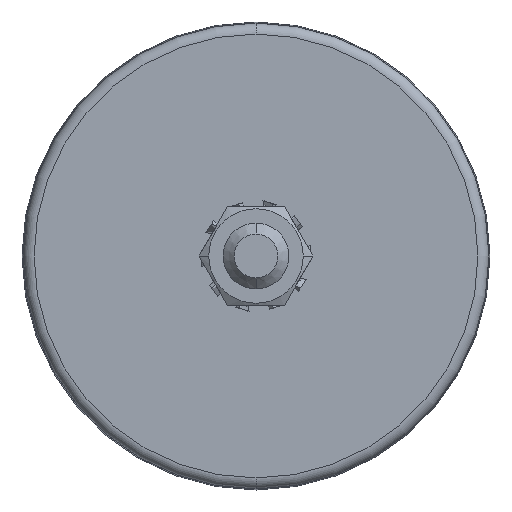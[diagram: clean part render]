
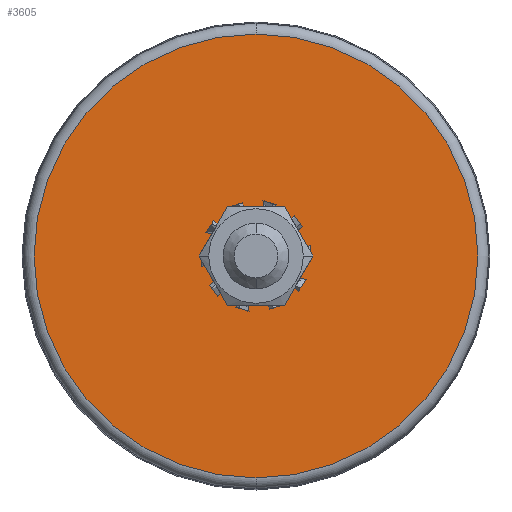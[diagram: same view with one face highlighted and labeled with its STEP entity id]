
A CAD part, front view. The second image highlights one B-rep face of the part: STEP entity #3605.
In plain terms, the highlighted planar face has unit normal (0, -1, 0).
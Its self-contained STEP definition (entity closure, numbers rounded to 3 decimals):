
#90 = DIRECTION ( 'NONE',  ( 0., 0., -1. ) ) ;
#91 = ORIENTED_EDGE ( 'NONE', *, *, #2151, .T. ) ;
#356 = ORIENTED_EDGE ( 'NONE', *, *, #6474, .T. ) ;
#382 = CARTESIAN_POINT ( 'NONE',  ( 0., 0., 0. ) ) ;
#593 = AXIS2_PLACEMENT_3D ( 'NONE', #6005, #1910, #2539 ) ;
#747 = FACE_OUTER_BOUND ( 'NONE', #5555, .T. ) ;
#805 = CARTESIAN_POINT ( 'NONE',  ( 0., 0., 0. ) ) ;
#816 = CIRCLE ( 'NONE', #4135, 40.5 ) ;
#867 = DIRECTION ( 'NONE',  ( 0., 0., -1. ) ) ;
#972 = AXIS2_PLACEMENT_3D ( 'NONE', #3086, #7122, #5989 ) ;
#1177 = DIRECTION ( 'NONE',  ( 0., 1., 0. ) ) ;
#1782 = CARTESIAN_POINT ( 'NONE',  ( 0., 0., 0. ) ) ;
#1910 = DIRECTION ( 'NONE',  ( 0., -1., 0. ) ) ;
#2151 = EDGE_CURVE ( 'NONE', #3703, #4866, #816, .T. ) ;
#2430 = VERTEX_POINT ( 'NONE', #7431 ) ;
#2532 = DIRECTION ( 'NONE',  ( 0., 1., 0. ) ) ;
#2539 = DIRECTION ( 'NONE',  ( 0., 0., -1. ) ) ;
#2585 = CIRCLE ( 'NONE', #972, 40.5 ) ;
#2986 = EDGE_CURVE ( 'NONE', #4866, #3703, #2585, .T. ) ;
#3086 = CARTESIAN_POINT ( 'NONE',  ( 0., 0., 0. ) ) ;
#3165 = AXIS2_PLACEMENT_3D ( 'NONE', #1782, #1177, #90 ) ;
#3605 = ADVANCED_FACE ( 'NONE', ( #5058, #747 ), #6947, .T. ) ;
#3696 = DIRECTION ( 'NONE',  ( 0., -1., 0. ) ) ;
#3703 = VERTEX_POINT ( 'NONE', #3785 ) ;
#3785 = CARTESIAN_POINT ( 'NONE',  ( 0., 0., -40.5 ) ) ;
#4014 = CIRCLE ( 'NONE', #3165, 8. ) ;
#4048 = VERTEX_POINT ( 'NONE', #5256 ) ;
#4135 = AXIS2_PLACEMENT_3D ( 'NONE', #805, #3696, #5366 ) ;
#4264 = ORIENTED_EDGE ( 'NONE', *, *, #2986, .T. ) ;
#4866 = VERTEX_POINT ( 'NONE', #5589 ) ;
#4915 = AXIS2_PLACEMENT_3D ( 'NONE', #382, #2532, #867 ) ;
#5058 = FACE_BOUND ( 'NONE', #6048, .T. ) ;
#5060 = EDGE_CURVE ( 'NONE', #2430, #4048, #4014, .T. ) ;
#5256 = CARTESIAN_POINT ( 'NONE',  ( 0., 0., 8. ) ) ;
#5366 = DIRECTION ( 'NONE',  ( 0., 0., -1. ) ) ;
#5555 = EDGE_LOOP ( 'NONE', ( #91, #4264 ) ) ;
#5589 = CARTESIAN_POINT ( 'NONE',  ( 0., 0., 40.5 ) ) ;
#5989 = DIRECTION ( 'NONE',  ( 0., 0., -1. ) ) ;
#6005 = CARTESIAN_POINT ( 'NONE',  ( 6., 0., 0. ) ) ;
#6048 = EDGE_LOOP ( 'NONE', ( #6753, #356 ) ) ;
#6398 = CIRCLE ( 'NONE', #4915, 8. ) ;
#6474 = EDGE_CURVE ( 'NONE', #4048, #2430, #6398, .T. ) ;
#6753 = ORIENTED_EDGE ( 'NONE', *, *, #5060, .T. ) ;
#6947 = PLANE ( 'NONE',  #593 ) ;
#7122 = DIRECTION ( 'NONE',  ( 0., -1., 0. ) ) ;
#7431 = CARTESIAN_POINT ( 'NONE',  ( 0., 0., -8. ) ) ;
